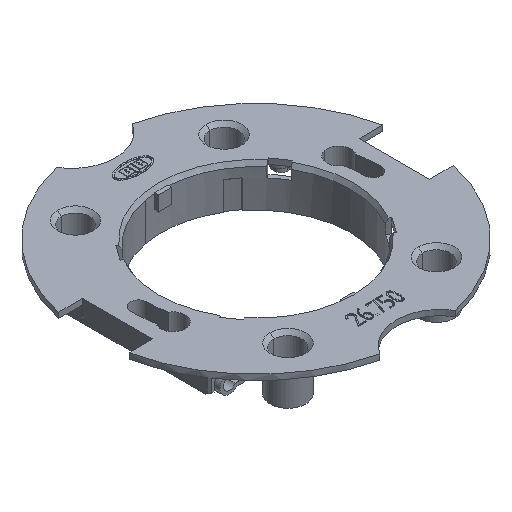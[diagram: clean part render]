
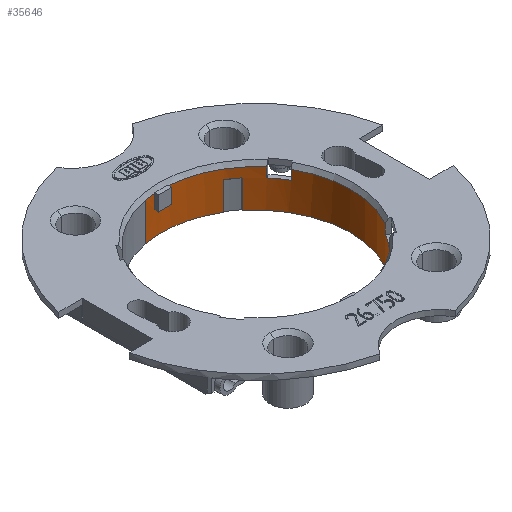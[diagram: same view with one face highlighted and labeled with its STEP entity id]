
A CAD part, isometric view. The second image highlights one B-rep face of the part: STEP entity #35646.
In plain terms, the highlighted cylindrical face has radius 21.4 mm (diameter 42.8 mm), a partial arc.
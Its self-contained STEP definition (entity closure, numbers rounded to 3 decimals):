
#14326=CARTESIAN_POINT(' ',(1.5,21.347,-0.999));
#14327=VERTEX_POINT(' ',#14326);
#14346=CARTESIAN_POINT(' ',(0.005,0.009,-0.999));
#14351=DIRECTION(' ',(0.,0.,1.));
#14356=DIRECTION(' ',(0.762,0.647,0.));
#14361=AXIS2_PLACEMENT_3D(' ',#14346,#14351,#14356);
#14366=CIRCLE('',#14361,21.39);
#14371=CARTESIAN_POINT(' ',(16.306,13.859,-0.999));
#14372=VERTEX_POINT(' ',#14371);
#14376=EDGE_CURVE(' ',#14372,#14327,#14366,.T.);
#14451=CARTESIAN_POINT(' ',(-3.963,21.03,-0.999));
#14452=VERTEX_POINT(' ',#14451);
#14466=CARTESIAN_POINT(' ',(0.,-0.011,-1.041));
#14471=DIRECTION(' ',(0.,-0.002,1.));
#14476=DIRECTION(' ',(-0.07,0.998,0.002));
#14481=AXIS2_PLACEMENT_3D(' ',#14466,#14471,#14476);
#14486=CIRCLE('',#14481,21.41);
#14491=CARTESIAN_POINT(' ',(-1.5,21.347,-0.999));
#14492=VERTEX_POINT(' ',#14491);
#14496=EDGE_CURVE(' ',#14492,#14452,#14486,.T.);
#14626=CARTESIAN_POINT(' ',(16.306,13.859,-3.15));
#14631=DIRECTION(' ',(0.,0.,1.));
#14636=VECTOR(' ',#14631,1.);
#14641=LINE('',#14626,#14636);
#14646=CARTESIAN_POINT(' ',(16.306,13.859,-3.15));
#14647=VERTEX_POINT(' ',#14646);
#14651=EDGE_CURVE(' ',#14647,#14372,#14641,.T.);
#14951=CARTESIAN_POINT(' ',(18.6,10.583,-3.15));
#14956=DIRECTION(' ',(0.,0.,1.));
#14961=VECTOR(' ',#14956,1.);
#14966=LINE('',#14951,#14961);
#14971=CARTESIAN_POINT(' ',(18.6,10.583,-3.15));
#14972=VERTEX_POINT(' ',#14971);
#14976=CARTESIAN_POINT(' ',(18.6,10.583,-0.999));
#14977=VERTEX_POINT(' ',#14976);
#14981=EDGE_CURVE(' ',#14972,#14977,#14966,.T.);
#15206=CARTESIAN_POINT(' ',(0.,0.,-1.));
#15211=DIRECTION(' ',(0.,0.,1.));
#15216=DIRECTION(' ',(0.869,-0.495,0.));
#15221=AXIS2_PLACEMENT_3D(' ',#15206,#15211,#15216);
#15226=CIRCLE('',#15221,21.4);
#15231=CARTESIAN_POINT(' ',(18.6,-10.583,-0.999));
#15232=VERTEX_POINT(' ',#15231);
#15236=EDGE_CURVE(' ',#15232,#14977,#15226,.T.);
#15331=CARTESIAN_POINT(' ',(18.6,-10.583,-3.15));
#15336=DIRECTION(' ',(0.,0.,1.));
#15341=VECTOR(' ',#15336,1.);
#15346=LINE('',#15331,#15341);
#15351=CARTESIAN_POINT(' ',(18.6,-10.583,-3.15));
#15352=VERTEX_POINT(' ',#15351);
#15356=EDGE_CURVE(' ',#15352,#15232,#15346,.T.);
#15656=CARTESIAN_POINT(' ',(16.306,-13.859,-3.15));
#15661=DIRECTION(' ',(0.,0.,1.));
#15666=VECTOR(' ',#15661,1.);
#15671=LINE('',#15656,#15666);
#15676=CARTESIAN_POINT(' ',(16.306,-13.859,-3.15));
#15677=VERTEX_POINT(' ',#15676);
#15681=CARTESIAN_POINT(' ',(16.306,-13.859,-0.999));
#15682=VERTEX_POINT(' ',#15681);
#15686=EDGE_CURVE(' ',#15677,#15682,#15671,.T.);
#16036=CARTESIAN_POINT(' ',(0.007,-0.011,-0.999));
#16041=DIRECTION(' ',(0.,0.,1.));
#16046=DIRECTION(' ',(0.185,-0.983,0.));
#16051=AXIS2_PLACEMENT_3D(' ',#16036,#16041,#16046);
#16056=CIRCLE('',#16051,21.388);
#16061=CARTESIAN_POINT(' ',(3.963,-21.03,-0.999));
#16062=VERTEX_POINT(' ',#16061);
#16066=EDGE_CURVE(' ',#16062,#15682,#16056,.T.);
#33936=CARTESIAN_POINT(' ',(3.963,-21.03,-0.999));
#33941=DIRECTION(' ',(0.,0.,-1.));
#33946=VECTOR(' ',#33941,1.);
#33951=LINE('',#33936,#33946);
#33956=CARTESIAN_POINT(' ',(3.963,-21.03,-9.5));
#33957=VERTEX_POINT(' ',#33956);
#33961=EDGE_CURVE(' ',#16062,#33957,#33951,.T.);
#34146=CARTESIAN_POINT(' ',(-3.963,21.03,-9.5));
#34147=VERTEX_POINT(' ',#34146);
#34161=CARTESIAN_POINT(' ',(-3.963,21.03,-9.5));
#34166=DIRECTION(' ',(0.,0.,1.));
#34171=VECTOR(' ',#34166,1.);
#34176=LINE('',#34161,#34171);
#34181=EDGE_CURVE(' ',#34147,#14452,#34176,.T.);
#35101=CARTESIAN_POINT(' ',(1.5,21.347,-4.25));
#35102=VERTEX_POINT(' ',#35101);
#35116=CARTESIAN_POINT(' ',(1.5,21.347,-0.999));
#35121=DIRECTION(' ',(0.,0.,-1.));
#35126=VECTOR(' ',#35121,1.);
#35131=LINE('',#35116,#35126);
#35136=EDGE_CURVE(' ',#14327,#35102,#35131,.T.);
#35231=CARTESIAN_POINT(' ',(0.,0.,-106.491));
#35236=DIRECTION(' ',(0.,0.,1.));
#35241=DIRECTION(' ',(0.185,-0.983,0.));
#35246=AXIS2_PLACEMENT_3D(' ',#35231,#35236,#35241);
#35251=CYLINDRICAL_SURFACE(' ',#35246,21.4);
#35256=ORIENTED_EDGE(' ',*,*,#33961,.F.);
#35261=ORIENTED_EDGE(' ',*,*,#16066,.T.);
#35266=ORIENTED_EDGE(' ',*,*,#15686,.F.);
#35271=CARTESIAN_POINT(' ',(0.,0.,-3.15));
#35276=DIRECTION(' ',(0.,0.,1.));
#35281=DIRECTION(' ',(0.762,-0.648,0.));
#35286=AXIS2_PLACEMENT_3D(' ',#35271,#35276,#35281);
#35291=CIRCLE('',#35286,21.4);
#35296=EDGE_CURVE(' ',#15677,#15352,#35291,.T.);
#35301=ORIENTED_EDGE(' ',*,*,#35296,.T.);
#35306=ORIENTED_EDGE(' ',*,*,#15356,.T.);
#35311=ORIENTED_EDGE(' ',*,*,#15236,.T.);
#35316=ORIENTED_EDGE(' ',*,*,#14981,.F.);
#35321=CARTESIAN_POINT(' ',(0.,0.,-3.15));
#35326=DIRECTION(' ',(0.,0.,1.));
#35331=DIRECTION(' ',(0.869,0.495,0.));
#35336=AXIS2_PLACEMENT_3D(' ',#35321,#35326,#35331);
#35341=CIRCLE('',#35336,21.4);
#35346=EDGE_CURVE(' ',#14972,#14647,#35341,.T.);
#35351=ORIENTED_EDGE(' ',*,*,#35346,.T.);
#35356=ORIENTED_EDGE(' ',*,*,#14651,.T.);
#35361=ORIENTED_EDGE(' ',*,*,#14376,.T.);
#35366=ORIENTED_EDGE(' ',*,*,#35136,.T.);
#35371=CARTESIAN_POINT(' ',(0.,0.,-4.25));
#35376=DIRECTION(' ',(0.,0.,1.));
#35381=DIRECTION(' ',(0.07,0.998,0.));
#35386=AXIS2_PLACEMENT_3D(' ',#35371,#35376,#35381);
#35391=CIRCLE('',#35386,21.4);
#35396=CARTESIAN_POINT(' ',(-1.5,21.347,-4.25));
#35397=VERTEX_POINT(' ',#35396);
#35401=EDGE_CURVE(' ',#35102,#35397,#35391,.T.);
#35406=ORIENTED_EDGE(' ',*,*,#35401,.T.);
#35411=CARTESIAN_POINT(' ',(-1.5,21.347,-0.999));
#35416=DIRECTION(' ',(0.,0.,-1.));
#35421=VECTOR(' ',#35416,1.);
#35426=LINE('',#35411,#35421);
#35431=EDGE_CURVE(' ',#14492,#35397,#35426,.T.);
#35436=ORIENTED_EDGE(' ',*,*,#35431,.F.);
#35441=ORIENTED_EDGE(' ',*,*,#14496,.T.);
#35446=ORIENTED_EDGE(' ',*,*,#34181,.F.);
#35451=CARTESIAN_POINT(' ',(0.,0.,-9.5));
#35456=DIRECTION(' ',(0.,-0.,-1.));
#35461=DIRECTION(' ',(-0.185,0.983,0.));
#35466=AXIS2_PLACEMENT_3D(' ',#35451,#35456,#35461);
#35471=CIRCLE('',#35466,21.4);
#35476=CARTESIAN_POINT(' ',(11.016,18.347,-9.5));
#35477=VERTEX_POINT(' ',#35476);
#35481=EDGE_CURVE(' ',#34147,#35477,#35471,.T.);
#35486=ORIENTED_EDGE(' ',*,*,#35481,.T.);
#35491=CARTESIAN_POINT(' ',(11.016,18.347,-9.5));
#35496=DIRECTION(' ',(0.,0.,1.));
#35501=VECTOR(' ',#35496,1.);
#35506=LINE('',#35491,#35501);
#35511=CARTESIAN_POINT(' ',(11.016,18.347,-3.15));
#35512=VERTEX_POINT(' ',#35511);
#35516=EDGE_CURVE(' ',#35477,#35512,#35506,.T.);
#35521=ORIENTED_EDGE(' ',*,*,#35516,.T.);
#35526=CARTESIAN_POINT(' ',(0.,0.,-3.15));
#35531=DIRECTION(' ',(0.,0.,-1.));
#35536=DIRECTION(' ',(0.515,0.857,0.));
#35541=AXIS2_PLACEMENT_3D(' ',#35526,#35531,#35536);
#35546=CIRCLE('',#35541,21.4);
#35551=CARTESIAN_POINT(' ',(13.473,16.626,-3.15));
#35552=VERTEX_POINT(' ',#35551);
#35556=EDGE_CURVE(' ',#35512,#35552,#35546,.T.);
#35561=ORIENTED_EDGE(' ',*,*,#35556,.T.);
#35566=CARTESIAN_POINT(' ',(13.473,16.626,-9.5));
#35571=DIRECTION(' ',(0.,0.,1.));
#35576=VECTOR(' ',#35571,1.);
#35581=LINE('',#35566,#35576);
#35586=CARTESIAN_POINT(' ',(13.473,16.626,-9.5));
#35587=VERTEX_POINT(' ',#35586);
#35591=EDGE_CURVE(' ',#35587,#35552,#35581,.T.);
#35596=ORIENTED_EDGE(' ',*,*,#35591,.F.);
#35601=CARTESIAN_POINT(' ',(0.,0.,-9.5));
#35606=DIRECTION(' ',(0.,0.,-1.));
#35611=DIRECTION(' ',(0.63,0.777,0.));
#35616=AXIS2_PLACEMENT_3D(' ',#35601,#35606,#35611);
#35621=CIRCLE('',#35616,21.4);
#35626=EDGE_CURVE(' ',#35587,#33957,#35621,.T.);
#35631=ORIENTED_EDGE(' ',*,*,#35626,.T.);
#35636=EDGE_LOOP(' ',(#35256,#35261,#35266,#35301,#35306,#35311,#35316,#35351,#35356,#35361,#35366,#35406,#35436,#35441,#35446,#35486,#35521,#35561,#35596,#35631));
#35641=FACE_OUTER_BOUND(' ',#35636,.T.);
#35646=ADVANCED_FACE('',(#35641),#35251,.F.);
